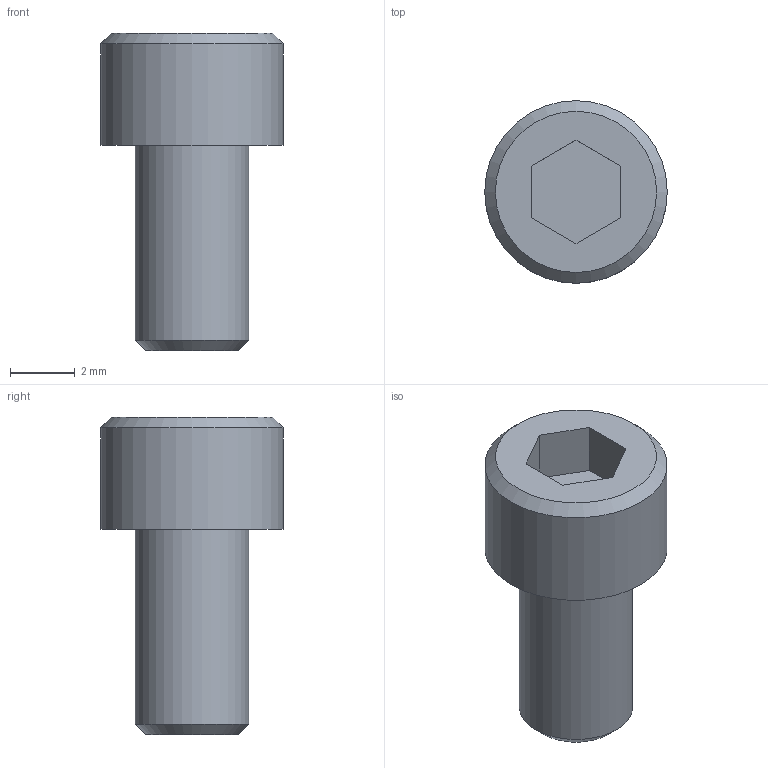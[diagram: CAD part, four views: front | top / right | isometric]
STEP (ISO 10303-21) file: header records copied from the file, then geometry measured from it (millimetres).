
FILE_DESCRIPTION((''),'2;1');
FILE_NAME('C:\Users\Stan\Desktop\import\SHCS 6-32 UNCx0.25.ipt.step','2011-08-18T17:44:39',(''),(''),'Autodesk Inventor 2012','Autodesk Inventor 2012','');
FILE_SCHEMA(('AUTOMOTIVE_DESIGN { 1 0 10303 214 1 1 1 1 }'));
Length unit declared in the file: inch
Products named in the file (1): SHCS 6-32 UNCx0.25
Bounding box: 5.64 x 5.64 x 9.8 mm (x, y, z)
Volume: 135.3 mm3; surface area: 190.8 mm2
Topology: 1 solids, 1 shells, 14 faces, 28 edges, 18 vertices
Faces by surface type: plane 10, cone 2, cylinder 2
Full cylindrical faces by diameter (mm): 3.505 x1, 5.639 x1
Entity records: 391 total; most frequent: DIRECTION 60, CARTESIAN_POINT 57, ORIENTED_EDGE 48, EDGE_CURVE 24, AXIS2_PLACEMENT_3D 21, EDGE_LOOP 20, VERTEX_POINT 18, VECTOR 18
